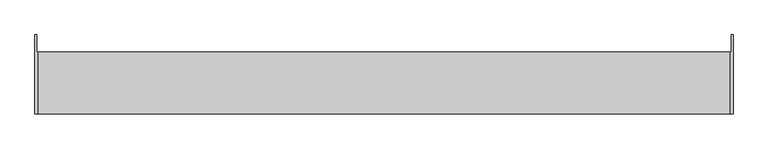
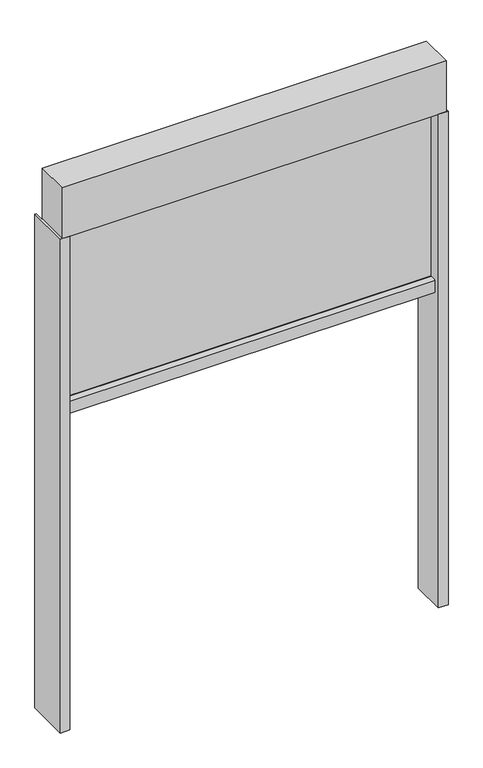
"""IFC4 building model written with IfcOpenShell, lengths in millimetres: proxy geometry, Renson_Fixscreen_Minimal_Single : Recessed - Front of the window - Small - Access downwards - Fabric away from the window."""

from ifc_helpers import new_model, si_unit, point, frame, frame_2d, origin, origin_with_axes, place, context, project, spatial, polyline, circle_curve, trimmed, segment, composite_curve, outline, extrude, source, transform, mapped, element, save


def generic_models_e5bb3e6d(model_context):
    return source(origin(), model_context, "Body", "SweptSolid", [
        extrude(outline(polyline([(-502.0, 693.5959909), (-480.0, 693.5959909), (-480.0, 603.5959909), (-505.0, 603.5959909), (-505.0, 718.5959909), (-502.0, 718.5959909), (-502.0, 693.5959909)])), origin_with_axes(), (0.0, 0.0, 1.0), 1360.0),
        extrude(outline(polyline([(502.0, 693.5959909), (502.0, 718.5959909), (505.0, 718.5959909), (505.0, 603.5959909), (480.0, 603.5959909), (480.0, 693.5959909), (502.0, 693.5959909)])), origin_with_axes(), (0.0, 0.0, 1.0), 1360.0),
        extrude(outline(polyline([(-480.0, 640.0709909), (480.0, 640.0709909), (480.0, 637.0709909), (-480.0, 637.0709909), (-480.0, 640.0709909)])), frame((0.0, 0.0, 872.5006852), z_axis=(0.0, 0.0, 1.0), x_axis=(1.0, 0.0, 0.0)), (0.0, 0.0, 1.0), 487.4993148),
        extrude(outline(composite_curve([segment(polyline([(658.8209391, 860.0), (618.3210426, 860.0), (618.3210426, 894.1156826), (635.4451521, 895.0000198)]), True, "CONTINUOUS"), segment(trimmed(circle_curve(frame_2d((635.4709391, 894.5006852)), 0.5), [point((635.4451521, 895.0000198))], [point((635.9709391, 894.5006852))], False, "CARTESIAN"), True, "CONTINUOUS"), segment(polyline([(635.9709391, 894.5006852), (635.9709391, 893.5367989), (634.7058008, 893.5367989), (635.4461043, 889.0119223)]), True, "CONTINUOUS"), segment(trimmed(circle_curve(frame_2d((595.9709391, 882.5534911)), 40.0), [point((635.4461043, 889.0119223))], [point((635.9709391, 882.5534911))], False, "CARTESIAN"), True, "CONTINUOUS"), segment(polyline([(635.9709391, 882.5534911), (635.9709391, 874.5006852)]), True, "CONTINUOUS"), segment(trimmed(circle_curve(frame_2d((637.9709391, 874.5006852)), 2.0), [point((635.9709391, 874.5006852))], [point((637.9709391, 872.5006852))], True, "CARTESIAN"), True, "CONTINUOUS"), segment(polyline([(637.9709391, 872.5006852), (639.6709391, 872.5006852)]), True, "CONTINUOUS"), segment(trimmed(circle_curve(frame_2d((639.6709391, 874.5006852)), 2.0), [point((639.6709391, 872.5006852))], [point((641.6709391, 874.5006852))], True, "CARTESIAN"), True, "CONTINUOUS"), segment(polyline([(641.6709391, 874.5006852), (641.6709391, 882.5534911)]), True, "CONTINUOUS"), segment(trimmed(circle_curve(frame_2d((681.6709391, 882.5534911)), 40.0), [point((641.6709391, 882.5534911))], [point((642.195774, 889.0119223))], False, "CARTESIAN"), True, "CONTINUOUS"), segment(polyline([(642.195774, 889.0119223), (642.9360775, 893.5367989), (641.6709391, 893.5367989), (641.6709391, 894.5006852)]), True, "CONTINUOUS"), segment(trimmed(circle_curve(frame_2d((642.1709391, 894.5006852)), 0.5), [point((641.6709391, 894.5006852))], [point((642.1974995, 894.9999793))], False, "CARTESIAN"), True, "CONTINUOUS"), segment(polyline([(642.1974995, 894.9999793), (658.8209391, 894.1156826), (658.8209391, 860.0)]), True, "CONTINUOUS")], self_intersect=False)), frame((-480.0, 0.0, 0.0), z_axis=(1.0, 0.0, 0.0), x_axis=(0.0, 1.0, 0.0)), (0.0, 0.0, 1.0), 960.0),
        extrude(outline(polyline([(-500.0, 603.5959909), (-500.0, 693.5959909), (500.0, 693.5959909), (500.0, 603.5959909), (-500.0, 603.5959909)])), frame((0.0, 0.0, 1360.0), z_axis=(0.0, 0.0, 1.0), x_axis=(1.0, 0.0, 0.0)), (0.0, 0.0, 1.0), 140.0),
    ])


if __name__ == "__main__":
    model = new_model("IFC4")
    model_context = context("Model", 3, world=origin())
    ifc_project = project(units=[si_unit("LENGTHUNIT", "METRE", prefix="MILLI")], contexts=[model_context])
    site = spatial("IfcSite", under=ifc_project)
    building = spatial("IfcBuilding", under=site)
    placement = place(None, origin())
    generic_models_shape = generic_models_e5bb3e6d(model_context)
    element("IfcBuildingElementProxy", 1, Name="Renson_Fixscreen_Minimal_Single : Recessed - Front of the window - Small - Access downwards - Fabric away from the window", ObjectType="Renson_Fixscreen_Minimal_Single : Recessed - Front of the window - Small - Access downwards - Fabric away from the window", at=placement, inside=building, context=model_context, shape_type="MappedRepresentation", body=[
        mapped(generic_models_shape, transform((0.0, 0.0, 0.0), x_axis=(1.0, 0.0, 0.0), y_axis=(0.0, 1.0, 0.0), z_axis=(0.0, 0.0, 1.0))),
    ])
    save(model, "model.ifc")
